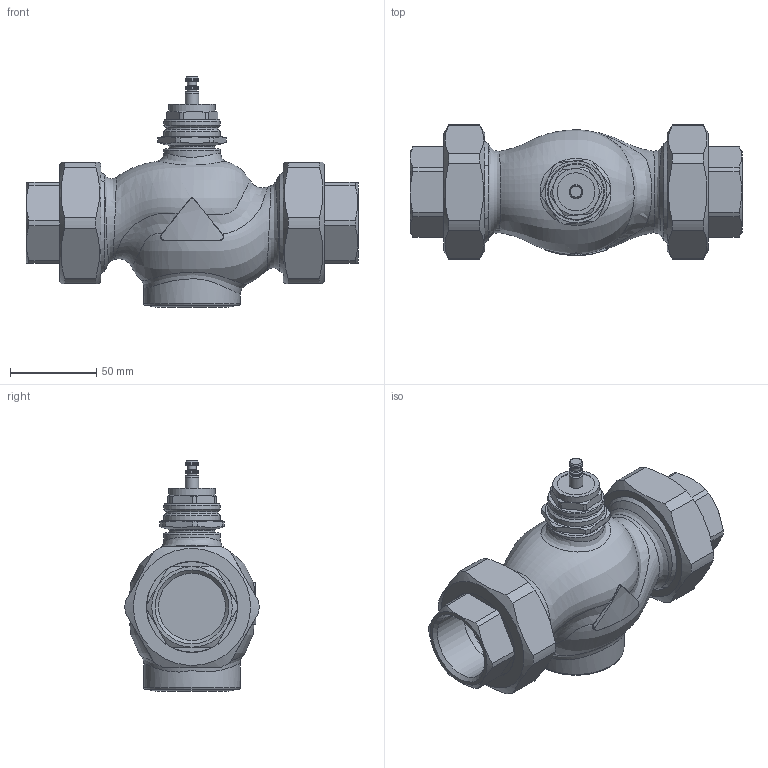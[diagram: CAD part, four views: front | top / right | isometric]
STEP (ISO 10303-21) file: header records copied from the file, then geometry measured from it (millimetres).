
FILE_DESCRIPTION(/* description */ (''),/* implementation_level */ '2;1');
FILE_NAME(/* name */ 'rv111s_dn32_2_T.stp',/* time_stamp */ '2012-02-28T08:39:13+01:00',/* author */ ('KLIMES'),/* organization */ ('LDM'),/* preprocessor_version */ 'ST-DEVELOPER v11',/* originating_system */ 'SIEMENS PLM Software NX 7.0',/* authorisation */ '');
FILE_SCHEMA (('CONFIG_CONTROL_DESIGN'));
Length unit declared in the file: millimetre
Products named in the file (1): klimEAFB3ce5
Bounding box: 193 x 77.97 x 133.95 mm (x, y, z)
Volume: 588876 mm3; surface area: 92695.6 mm2
Topology: 7 solids, 7 shells, 208 faces, 485 edges, 309 vertices
Faces by surface type: plane 83, cylinder 59, cone 34, bspline 20, torus 12
Full cylindrical faces by diameter (mm): 5.3 x1, 5.5 x1, 8 x3, 22 x1, 26.5 x1, 27 x1, 33 x3, 38.952 x2, 44 x4, 49 x1, 52.6 x2, 53 x2, 56 x3, 56.3 x2, 56.656 x2, 59.614 x2
Entity records: 11197 total; most frequent: CARTESIAN_POINT 6949, DIRECTION 836, ORIENTED_EDGE 776, EDGE_CURVE 388, AXIS2_PLACEMENT_3D 370, EDGE_LOOP 306, VERTEX_POINT 280, ADVANCED_FACE 208
